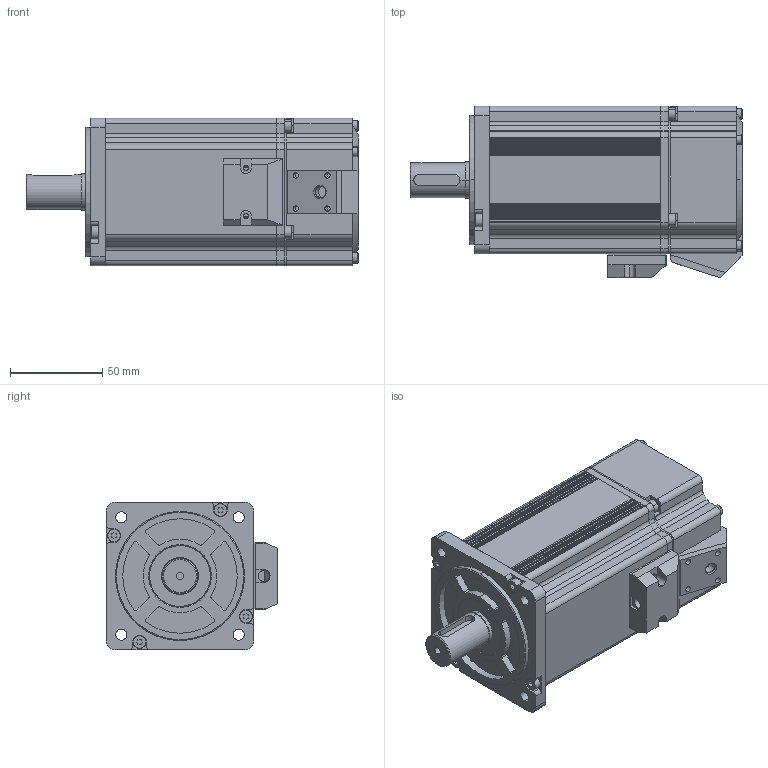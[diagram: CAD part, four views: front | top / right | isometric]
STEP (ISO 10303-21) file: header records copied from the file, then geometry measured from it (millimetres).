
FILE_DESCRIPTION (( 'STEP AP203' ), '1' );
FILE_NAME ('X2-80ST-M02430B-20P7.STEP', '2019-12-13T07:17:45', ( '' ), ( '' ), 'SwSTEP 2.0', 'SolidWorks 2016', '' );
FILE_SCHEMA (( 'CONFIG_CONTROL_DESIGN' ));
Length unit declared in the file: millimetre
Products named in the file (1): X2-80ST-M02430B-20P7
Bounding box: 180 x 93.01 x 80 mm (x, y, z)
Surface area: 73961 mm2 (no closed solid volume)
Topology: 0 solids, 29 shells, 623 faces, 1909 edges, 1331 vertices
Faces by surface type: cylinder 319, plane 271, torus 24, cone 9
Entity records: 21369 total; most frequent: DIRECTION 3957, CARTESIAN_POINT 3955, ORIENTED_EDGE 3016, EDGE_CURVE 1909, AXIS2_PLACEMENT_3D 1437, VERTEX_POINT 1331, LINE 1083, VECTOR 1083
